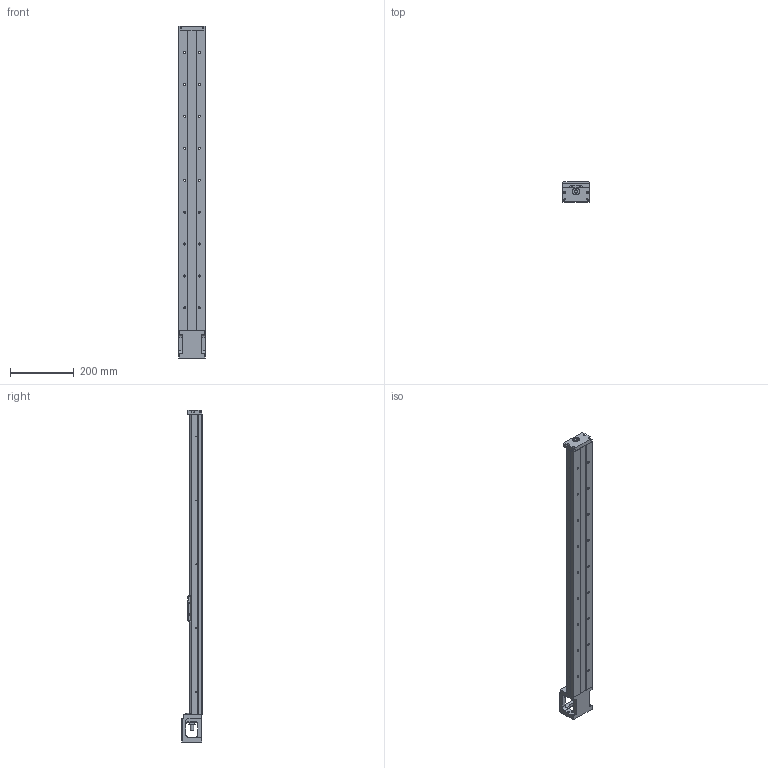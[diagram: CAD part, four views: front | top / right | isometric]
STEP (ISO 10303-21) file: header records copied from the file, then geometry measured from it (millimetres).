
FILE_DESCRIPTION(/* description */ (''),/* implementation_level */ '2;1');
FILE_NAME(/* name */ 'KP46S-940C02-D.stp',/* time_stamp */ '2020-07-03T14:04:03+08:00',/* author */ (''),/* organization */ (''),/* preprocessor_version */ 'ST-DEVELOPER v14',/* originating_system */ 'SIEMENS PLM Software NX 8.0',/* authorisation */ '');
FILE_SCHEMA (('AUTOMOTIVE_DESIGN { 1 0 10303 214 3 1 1 1 }'));
Length unit declared in the file: millimetre
Products named in the file (1): model2
Bounding box: 86 x 64 x 1040 mm (x, y, z)
Volume: 1957241.8 mm3; surface area: 405457.6 mm2
Topology: 5 solids, 20 shells, 661 faces, 1745 edges, 1147 vertices
Faces by surface type: plane 290, cylinder 244, cone 66, bspline 53, torus 8
Full cylindrical faces by diameter (mm): 2 x2, 2.11 x2, 2.15 x10, 2.42 x6, 3 x4, 3.2 x4, 3.3 x6, 3.4 x4, 4 x2, 4.2 x4, 4.5 x8, 5 x6, 6 x8, 6.35 x2, 6.6 x18, 6.7 x2, 8.7 x4, 9.6 x1, 10 x4, 11 x18, 12 x1, 14.95 x2, 15 x1, 16 x2, 22 x3, 27.5 x1, 44 x1, 50 x1
Entity records: 32981 total; most frequent: CARTESIAN_POINT 13519, ORIENTED_EDGE 2966, DIRECTION 2893, EDGE_CURVE 1483, AXIS2_PLACEMENT_3D 1078, VERTEX_POINT 1076, EDGE_LOOP 941, LINE 737
